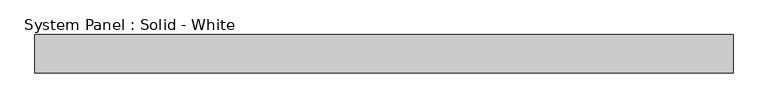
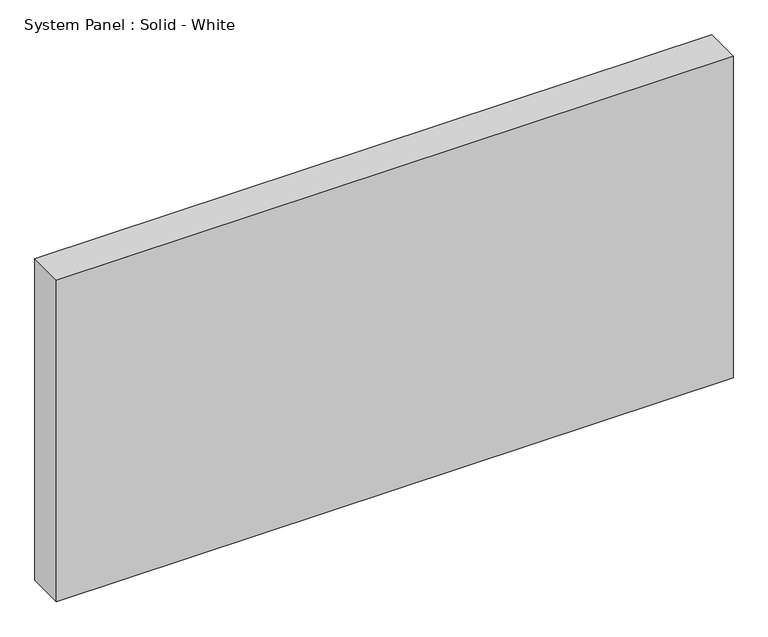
"""IFC4 building model written with IfcOpenShell, lengths in millimetres: plate geometry, System Panel : Solid - White."""

from ifc_helpers import new_model, si_unit, origin, origin_with_axes, place, context, project, spatial, polyline, outline, extrude, source, transform, mapped, element, save


def system_panel_solid_white_887372fa(model_context):
    return source(origin(), model_context, "Body", "SweptSolid", [
        extrude(outline(polyline([(575.3099999, -19.05), (-575.3099999, -19.05), (-575.3099999, 44.45), (575.3099999, 44.45), (575.3099999, -19.05)])), origin_with_axes(), (0.0, 0.0, 1.0), 577.85),
    ])


if __name__ == "__main__":
    model = new_model("IFC4")
    model_context = context("Model", 3, world=origin())
    ifc_project = project(units=[si_unit("LENGTHUNIT", "METRE", prefix="MILLI")], contexts=[model_context])
    site = spatial("IfcSite", under=ifc_project)
    building = spatial("IfcBuilding", under=site)
    placement = place(None, origin())
    system_panel_solid_white_shape = system_panel_solid_white_887372fa(model_context)
    element("IfcPlate", 1, ObjectType="System Panel : Solid - White", at=placement, inside=building, context=model_context, shape_type="MappedRepresentation", body=[
        mapped(system_panel_solid_white_shape, transform((0.0, 0.0, 0.0), x_axis=(1.0, 0.0, 0.0), y_axis=(0.0, 1.0, 0.0), z_axis=(0.0, 0.0, 1.0))),
    ])
    save(model, "model.ifc")
